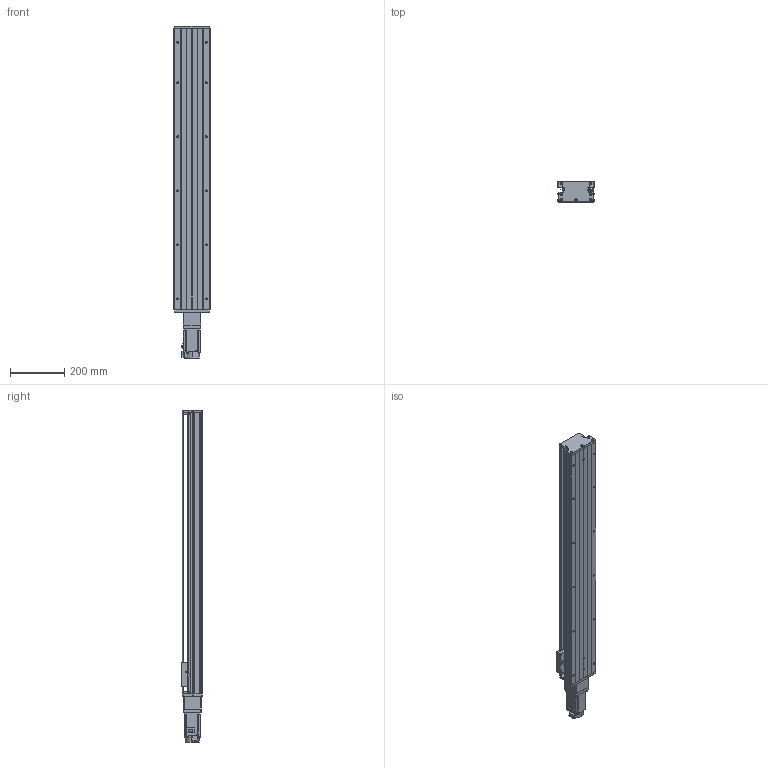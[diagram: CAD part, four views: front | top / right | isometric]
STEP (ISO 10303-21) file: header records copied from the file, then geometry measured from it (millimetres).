
FILE_DESCRIPTION (( 'STEP AP203' ), '1' );
FILE_NAME ('KTH130-900-BC-M40-C4.step', '2023-06-30T03:55:54', ( '微软用户' ), ( '微软中国' ), 'SwSTEP 2.0', 'SolidWorks 2020', '' );
FILE_SCHEMA (( 'CONFIG_CONTROL_DESIGN' ));
Length unit declared in the file: millimetre
Products named in the file (19): GB1155-6X6; GBT77-2000 M3×3; KTH130-900-BC-M40-C4; GBT70.1 M5℅16; す晦芛蹟隊 M3℅5; GBT 70.2-M3¡Á5_M3¡Á6; GBT 70.3-M3℅8; GTH14-001_900; CTHA60-017; CTHA86-006-1_M40; KTH130-002_KTH130-002; EE_SX911P_R; CTHA86-013; KTH130-004; CTHA60-016; CTHA86-027-1; KTH130-005; GBT 70.1-M3℅5; HG-KN43J-S100
Assembly tree (52 placements, depth 2):
  KTH130-900-BC-M40-C4
    GTH14-001_900
    KTH130-002_KTH130-002
    KTH130-004
    KTH130-005
    GB1155-6X6  x2
    GBT70.1 M5℅16  x10
    GBT 70.2-M3¡Á5_M3¡Á6  x4
    CTHA60-017  x3
    EE_SX911P_R  x3
    CTHA60-016  x2
    GBT 70.1-M3℅5  x6
    GBT77-2000 M3×3  x6
    す晦芛蹟隊 M3℅5  x2
    GBT 70.3-M3℅8  x6
    CTHA86-006-1_M40
    CTHA86-013
    CTHA86-027-1
    HG-KN43J-S100
Bounding box: 135 x 78 x 1228.7 mm (x, y, z)
Volume: 6257639 mm3; surface area: 946097.3 mm2
Topology: 55 solids, 55 shells, 2192 faces, 5302 edges, 3310 vertices
Faces by surface type: plane 1196, cylinder 608, cone 280, torus 96, sphere 12
Entity records: 40190 total; most frequent: CARTESIAN_POINT 8526, DIRECTION 5985, ORIENTED_EDGE 5888, EDGE_CURVE 2944, AXIS2_PLACEMENT_3D 2043, VECTOR 1899, LINE 1899, VERTEX_POINT 1882
